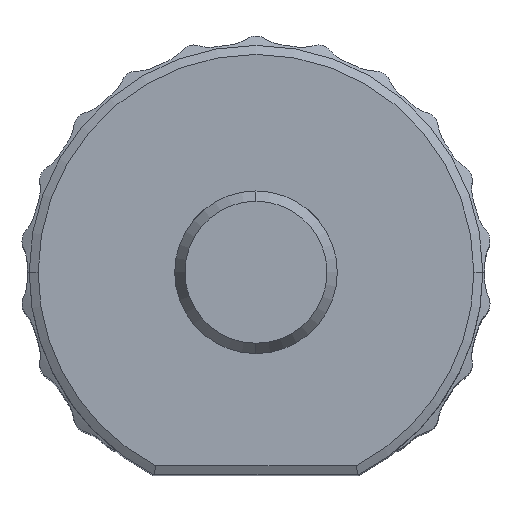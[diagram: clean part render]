
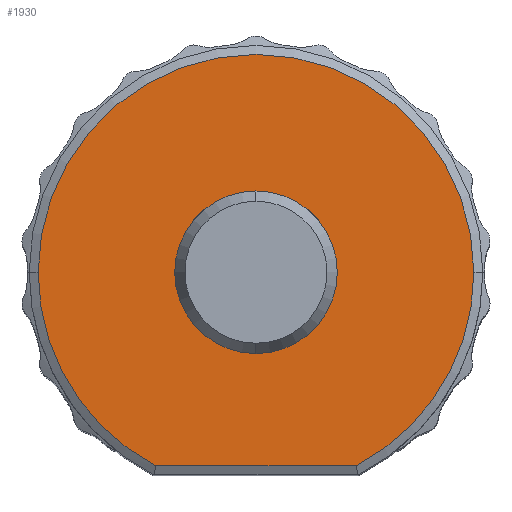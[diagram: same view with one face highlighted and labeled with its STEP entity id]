
A CAD part, top view. The second image highlights one B-rep face of the part: STEP entity #1930.
In plain terms, the highlighted planar face has unit normal (0, 0, 1).
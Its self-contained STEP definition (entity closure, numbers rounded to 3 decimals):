
#325 = DIRECTION ( 'NONE',  ( 1., 0., 0. ) ) ;
#515 = VERTEX_POINT ( 'NONE', #5475 ) ;
#553 = CARTESIAN_POINT ( 'NONE',  ( 0., 0., 0. ) ) ;
#683 = LINE ( 'NONE', #4124, #4165 ) ;
#916 = DIRECTION ( 'NONE',  ( 1., 0., 0. ) ) ;
#993 = FACE_OUTER_BOUND ( 'NONE', #8530, .T. ) ;
#1031 = DIRECTION ( 'NONE',  ( 0., 0., 1. ) ) ;
#1065 = CARTESIAN_POINT ( 'NONE',  ( 0., 0., 0. ) ) ;
#1221 = DIRECTION ( 'NONE',  ( 1., 0., 0. ) ) ;
#1370 = CIRCLE ( 'NONE', #4173, 2.975 ) ;
#1434 = AXIS2_PLACEMENT_3D ( 'NONE', #6954, #3040, #7621 ) ;
#1573 = EDGE_CURVE ( 'NONE', #8135, #6006, #683, .T. ) ;
#1813 = EDGE_CURVE ( 'NONE', #515, #8135, #4902, .T. ) ;
#1836 = DIRECTION ( 'NONE',  ( 1., 0., 0. ) ) ;
#1896 = EDGE_CURVE ( 'NONE', #6884, #7685, #8443, .T. ) ;
#1930 = ADVANCED_FACE ( 'NONE', ( #993, #4267 ), #3307, .T. ) ;
#2594 = CARTESIAN_POINT ( 'NONE',  ( 2.975, 0., 0. ) ) ;
#2610 = CARTESIAN_POINT ( 'NONE',  ( 0., 0., 0. ) ) ;
#3040 = DIRECTION ( 'NONE',  ( 0., 0., 1. ) ) ;
#3246 = DIRECTION ( 'NONE',  ( 1., 0., 0. ) ) ;
#3307 = PLANE ( 'NONE',  #8400 ) ;
#3423 = CARTESIAN_POINT ( 'NONE',  ( -2.975, 0., 0. ) ) ;
#3958 = DIRECTION ( 'NONE',  ( 0., 0., 1. ) ) ;
#4124 = CARTESIAN_POINT ( 'NONE',  ( 0., -7.08, 0. ) ) ;
#4138 = ORIENTED_EDGE ( 'NONE', *, *, #1573, .T. ) ;
#4164 = ORIENTED_EDGE ( 'NONE', *, *, #5806, .T. ) ;
#4165 = VECTOR ( 'NONE', #1836, 1000. ) ;
#4173 = AXIS2_PLACEMENT_3D ( 'NONE', #553, #5166, #1221 ) ;
#4203 = ORIENTED_EDGE ( 'NONE', *, *, #4285, .T. ) ;
#4226 = ORIENTED_EDGE ( 'NONE', *, *, #1813, .T. ) ;
#4235 = ORIENTED_EDGE ( 'NONE', *, *, #6644, .F. ) ;
#4242 = ORIENTED_EDGE ( 'NONE', *, *, #1896, .F. ) ;
#4263 = DIRECTION ( 'NONE',  ( 0., 0., 1. ) ) ;
#4267 = FACE_BOUND ( 'NONE', #8513, .T. ) ;
#4273 = AXIS2_PLACEMENT_3D ( 'NONE', #8254, #4263, #325 ) ;
#4285 = EDGE_CURVE ( 'NONE', #6039, #515, #4366, .T. ) ;
#4366 = CIRCLE ( 'NONE', #4273, 7.97 ) ;
#4385 = AXIS2_PLACEMENT_3D ( 'NONE', #1065, #1031, #916 ) ;
#4593 = CARTESIAN_POINT ( 'NONE',  ( 0., 0., 0. ) ) ;
#4638 = CARTESIAN_POINT ( 'NONE',  ( 3.66, -7.08, 0. ) ) ;
#4902 = CIRCLE ( 'NONE', #4385, 7.97 ) ;
#5166 = DIRECTION ( 'NONE',  ( 0., 0., 1. ) ) ;
#5342 = CARTESIAN_POINT ( 'NONE',  ( 7.97, 0., 0. ) ) ;
#5475 = CARTESIAN_POINT ( 'NONE',  ( -7.97, 0., 0. ) ) ;
#5806 = EDGE_CURVE ( 'NONE', #6006, #6039, #7404, .T. ) ;
#6006 = VERTEX_POINT ( 'NONE', #4638 ) ;
#6039 = VERTEX_POINT ( 'NONE', #5342 ) ;
#6130 = AXIS2_PLACEMENT_3D ( 'NONE', #2610, #7150, #3246 ) ;
#6644 = EDGE_CURVE ( 'NONE', #7685, #6884, #1370, .T. ) ;
#6884 = VERTEX_POINT ( 'NONE', #3423 ) ;
#6954 = CARTESIAN_POINT ( 'NONE',  ( 0., 0., 0. ) ) ;
#7150 = DIRECTION ( 'NONE',  ( 0., 0., 1. ) ) ;
#7404 = CIRCLE ( 'NONE', #1434, 7.97 ) ;
#7621 = DIRECTION ( 'NONE',  ( 1., 0., 0. ) ) ;
#7685 = VERTEX_POINT ( 'NONE', #2594 ) ;
#8135 = VERTEX_POINT ( 'NONE', #8506 ) ;
#8254 = CARTESIAN_POINT ( 'NONE',  ( 0., 0., 0. ) ) ;
#8400 = AXIS2_PLACEMENT_3D ( 'NONE', #4593, #3958, #8610 ) ;
#8443 = CIRCLE ( 'NONE', #6130, 2.975 ) ;
#8506 = CARTESIAN_POINT ( 'NONE',  ( -3.66, -7.08, 0. ) ) ;
#8513 = EDGE_LOOP ( 'NONE', ( #4235, #4242 ) ) ;
#8530 = EDGE_LOOP ( 'NONE', ( #4138, #4164, #4203, #4226 ) ) ;
#8610 = DIRECTION ( 'NONE',  ( 1., 0., 0. ) ) ;
